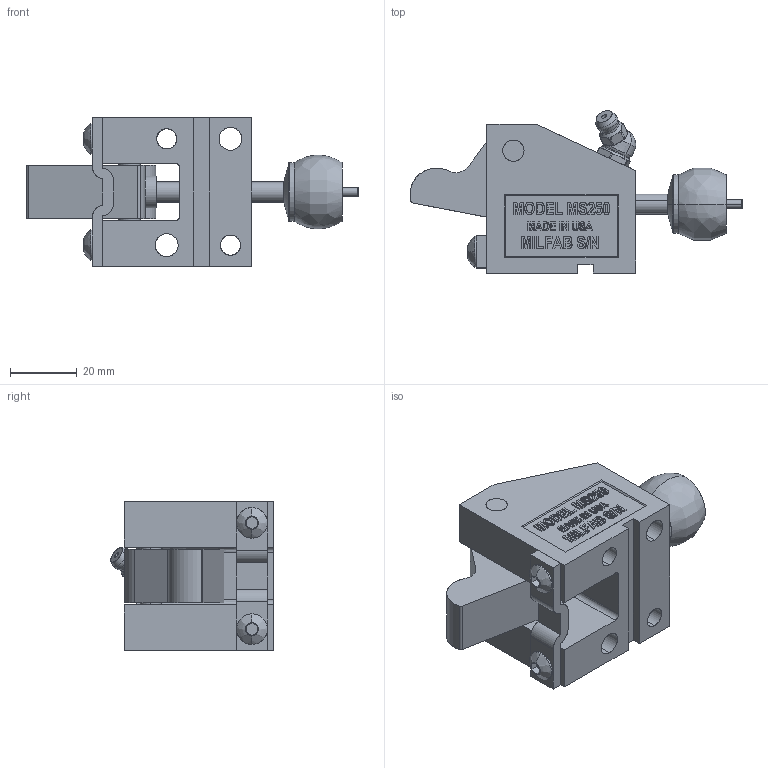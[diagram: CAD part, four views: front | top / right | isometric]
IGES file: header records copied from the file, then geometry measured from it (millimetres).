
Start section: SolidWorks IGES file using analytic representation for surfaces
Global section: file name: Y:\3\MS25045\CLOSED\MS25045-C.IGS; native system: SolidWorks 2006 by SolidWorks Corporation; preprocessor: SolidWorks 2006 by SolidWorks Corporation; author: Jim; date: 090126.141858; units: inch
Bounding box: 99.17 x 48.53 x 44.45 mm (x, y, z)
Surface area: 27321.3 mm2 (no closed solid volume)
Topology: 0 solids, 0 shells, 591 faces, 7364 edges, 7362 vertices
Faces by surface type: bspline 469, revolution 122
